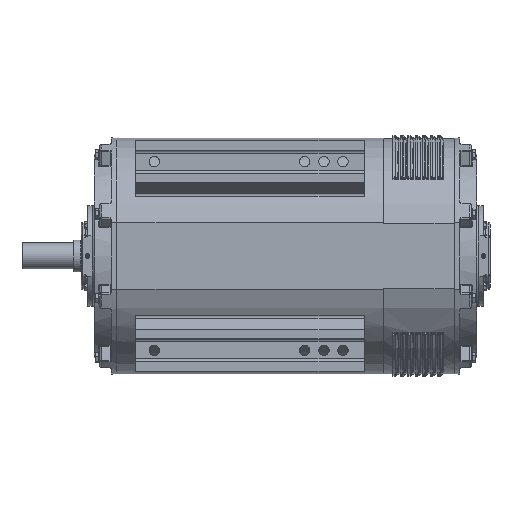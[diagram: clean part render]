
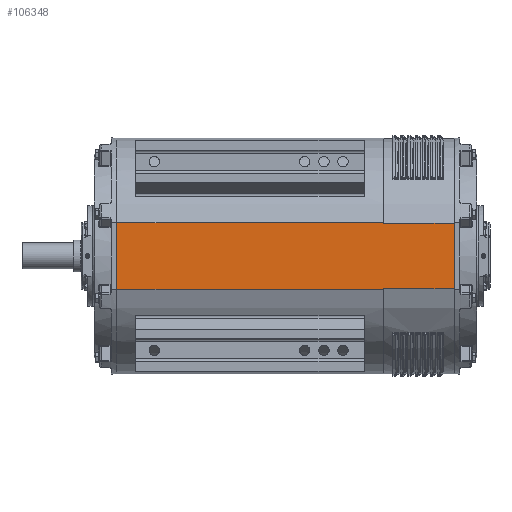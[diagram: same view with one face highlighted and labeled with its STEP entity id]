
A CAD part, front view. The second image highlights one B-rep face of the part: STEP entity #106348.
In plain terms, the highlighted planar face has unit normal (0, -1, 0).
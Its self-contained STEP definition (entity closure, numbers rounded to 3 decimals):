
#101314=CARTESIAN_POINT('',(718.5,-305.,-88.211));
#101315=VERTEX_POINT('',#101314);
#101316=CARTESIAN_POINT('',(908.5,-305.,-88.211));
#101317=VERTEX_POINT('',#101316);
#101318=CARTESIAN_POINT('',(718.5,-305.,-88.211));
#101319=DIRECTION('',(1.0,0.0,0.0));
#101320=VECTOR('',#101319,190.0);
#101321=LINE('',#101318,#101320);
#101322=EDGE_CURVE('',#101315,#101317,#101321,.T.);
#101324=CARTESIAN_POINT('',(718.5,-305.,88.211));
#101325=VERTEX_POINT('',#101324);
#101333=CARTESIAN_POINT('',(908.5,-305.,88.211));
#101334=VERTEX_POINT('',#101333);
#101335=CARTESIAN_POINT('',(908.5,-305.,88.211));
#101336=DIRECTION('',(-1.0,0.0,0.0));
#101337=VECTOR('',#101336,190.0);
#101338=LINE('',#101335,#101337);
#101339=EDGE_CURVE('',#101334,#101325,#101338,.T.);
#101413=CARTESIAN_POINT('',(718.5,-305.,-89.994));
#101414=VERTEX_POINT('',#101413);
#101415=CARTESIAN_POINT('',(718.5,-305.,-89.994));
#101416=DIRECTION('',(0.0,0.0,1.0));
#101417=VECTOR('',#101416,1.783);
#101418=LINE('',#101415,#101417);
#101419=EDGE_CURVE('',#101414,#101315,#101418,.T.);
#101421=CARTESIAN_POINT('',(718.5,-305.,89.994));
#101422=VERTEX_POINT('',#101421);
#101430=CARTESIAN_POINT('',(718.5,-305.,88.211));
#101431=DIRECTION('',(0.0,0.0,1.0));
#101432=VECTOR('',#101431,1.783);
#101433=LINE('',#101430,#101432);
#101434=EDGE_CURVE('',#101325,#101422,#101433,.T.);
#101446=CARTESIAN_POINT('',(908.5,-305.,88.211));
#101447=DIRECTION('',(0.0,0.0,-1.0));
#101448=VECTOR('',#101447,176.423);
#101449=LINE('',#101446,#101448);
#101450=EDGE_CURVE('',#101334,#101317,#101449,.T.);
#103595=CARTESIAN_POINT('',(0.5,-305.,-89.994));
#103596=VERTEX_POINT('',#103595);
#103597=CARTESIAN_POINT('',(718.5,-305.,-89.994));
#103598=DIRECTION('',(-1.0,0.0,0.0));
#103599=VECTOR('',#103598,718.);
#103600=LINE('',#103597,#103599);
#103601=EDGE_CURVE('',#101414,#103596,#103600,.T.);
#103603=CARTESIAN_POINT('',(0.5,-305.,89.994));
#103604=VERTEX_POINT('',#103603);
#103612=CARTESIAN_POINT('',(0.5,-305.,89.994));
#103613=DIRECTION('',(1.0,0.0,0.0));
#103614=VECTOR('',#103613,718.);
#103615=LINE('',#103612,#103614);
#103616=EDGE_CURVE('',#103604,#101422,#103615,.T.);
#106328=CARTESIAN_POINT('',(908.5,-305.,-89.994));
#106329=DIRECTION('',(0.0,1.0,0.0));
#106330=DIRECTION('',(-1.0,0.0,0.0));
#106331=AXIS2_PLACEMENT_3D('',#106328,#106329,#106330);
#106332=PLANE('',#106331);
#106333=ORIENTED_EDGE('',*,*,#101322,.T.);
#106334=ORIENTED_EDGE('',*,*,#101450,.F.);
#106335=ORIENTED_EDGE('',*,*,#101339,.T.);
#106336=ORIENTED_EDGE('',*,*,#101434,.T.);
#106337=ORIENTED_EDGE('',*,*,#103616,.F.);
#106338=CARTESIAN_POINT('',(0.5,-305.,-89.994));
#106339=DIRECTION('',(0.0,0.0,1.0));
#106340=VECTOR('',#106339,179.989);
#106341=LINE('',#106338,#106340);
#106342=EDGE_CURVE('',#103596,#103604,#106341,.T.);
#106343=ORIENTED_EDGE('',*,*,#106342,.F.);
#106344=ORIENTED_EDGE('',*,*,#103601,.F.);
#106345=ORIENTED_EDGE('',*,*,#101419,.T.);
#106346=EDGE_LOOP('',(#106333,#106334,#106335,#106336,#106337,#106343,#106344,#106345));
#106347=FACE_OUTER_BOUND('',#106346,.T.);
#106348=ADVANCED_FACE('',(#106347),#106332,.F.);
